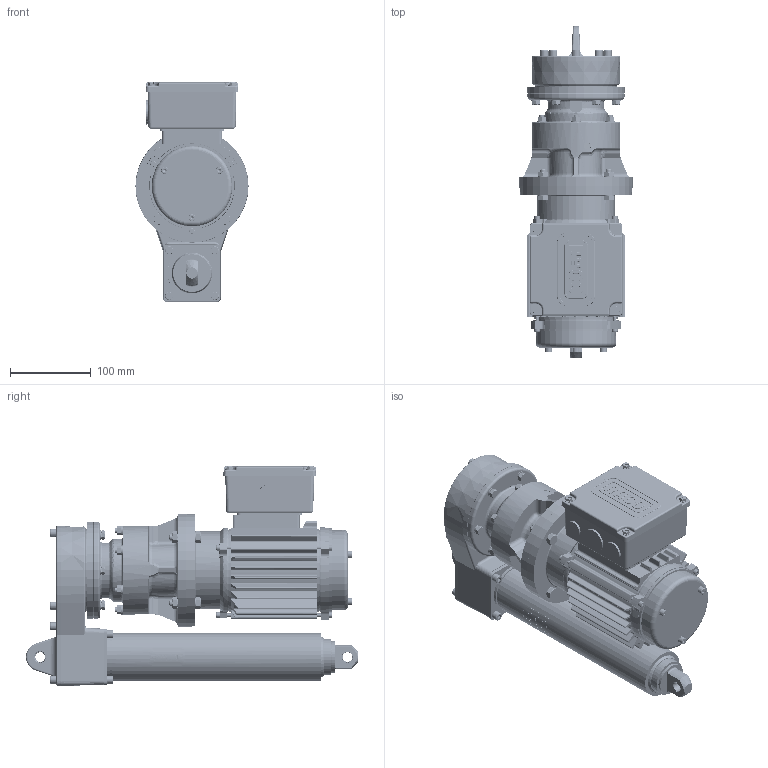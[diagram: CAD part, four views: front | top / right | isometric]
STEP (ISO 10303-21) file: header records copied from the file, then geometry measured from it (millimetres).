
FILE_DESCRIPTION(/* description */ ('Unknown'),/* implementation_level */ '2;1');
FILE_NAME(/* name */ 'T6N4-105-0200-168-465-5',/* time_stamp */ '2025-07-21T09:59:26+02:00',/* author */ ('Unknown'),/* organization */ ('Unknown'),/* preprocessor_version */ 'ST-DEVELOPER v19.4',/* originating_system */ 'Solid Edge',/* authorisation */ 'Unknown');
FILE_SCHEMA (('AUTOMOTIVE_DESIGN {1 0 10303 214 3 1 1}'));
Length unit declared in the file: millimetre
Products named in the file (9): 168-465-5; 12.00-C4-105; 02.14-C4-0200; 01.01-C4_kpl_Gabelauge; 63-B5_ALU; 10.20-04-11_alufarbig; 01.15-C4-0200; Klemmenkasten-Alu; 168-465-5_1
Assembly tree (8 placements, depth 2):
  168-465-5
    12.00-C4-105
    02.14-C4-0200
    01.01-C4_kpl_Gabelauge
    63-B5_ALU
    10.20-04-11_alufarbig
    01.15-C4-0200
    Klemmenkasten-Alu
    168-465-5_1
Bounding box: 140 x 410.67 x 272.55 mm (x, y, z)
Volume: 5079981.3 mm3; surface area: 553189.2 mm2
Topology: 14 solids, 44 shells, 7244 faces, 24594 edges, 16003 vertices
Faces by surface type: plane 6092, cylinder 758, torus 165, cone 125, bspline 66, sphere 38
Full cylindrical faces by diameter (mm): 1 x20, 4 x6, 4.917 x2, 5.3 x4, 5.7 x3, 6 x30, 6.5 x6, 6.6 x6, 6.647 x2, 7 x7, 8 x12, 8.4 x8, 8.5 x3, 8.566 x2, 9 x10, 9.15 x3, 10 x23, 10.05 x10, 12 x8, 13 x8, 14 x5, 20 x1, 23.9 x1, 24 x1, 24.8 x1, 25 x2, 30 x1, 32.04 x1, 32.445 x1, 38.9 x1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
Entity records: 306692 total; most frequent: CARTESIAN_POINT 50483, ORIENTED_EDGE 47970, DIRECTION 46133, EDGE_CURVE 23985, VERTEX_POINT 15804, AXIS2_PLACEMENT_3D 15616, LINE 14901, VECTOR 14901
